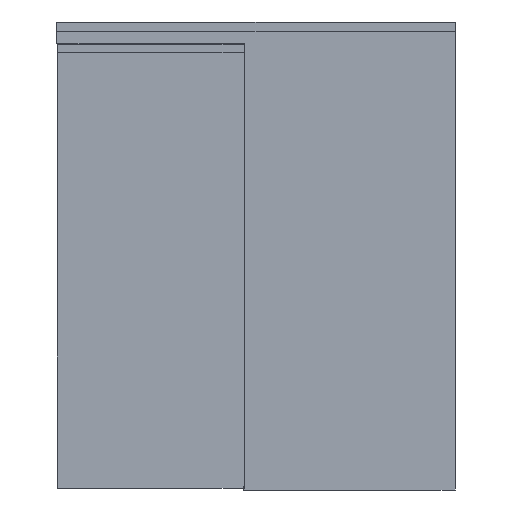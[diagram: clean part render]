
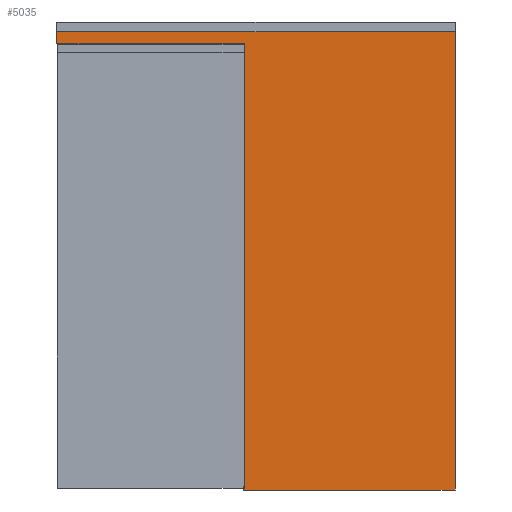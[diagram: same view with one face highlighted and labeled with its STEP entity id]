
A CAD part, front view. The second image highlights one B-rep face of the part: STEP entity #5035.
In plain terms, the highlighted planar face has unit normal (0, -1, 0).
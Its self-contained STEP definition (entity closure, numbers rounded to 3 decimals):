
#5035=ADVANCED_FACE('',(#10339),#10340,.F.);
#10339=FACE_OUTER_BOUND('',#15757,.T.);
#10340=PLANE('',#15758);
#15757=EDGE_LOOP('',(#29784,#29785,#29786,#29787,#29788,#29789));
#15758=AXIS2_PLACEMENT_3D('',#29790,#29791,#29792);
#29784=ORIENTED_EDGE('',*,*,#37343,.T.);
#29785=ORIENTED_EDGE('',*,*,#37333,.F.);
#29786=ORIENTED_EDGE('',*,*,#37337,.F.);
#29787=ORIENTED_EDGE('',*,*,#37341,.T.);
#29788=ORIENTED_EDGE('',*,*,#37344,.F.);
#29789=ORIENTED_EDGE('',*,*,#37345,.F.);
#29790=CARTESIAN_POINT('',(0.0,-46.5,2333.0));
#29791=DIRECTION('',(0.0,1.0,-0.0));
#29792=DIRECTION('',(0.0,0.0,1.0));
#37333=EDGE_CURVE('',#45869,#45864,#45871,.T.);
#37337=EDGE_CURVE('',#45875,#45869,#45877,.T.);
#37341=EDGE_CURVE('',#45875,#45881,#45883,.T.);
#37343=EDGE_CURVE('',#45885,#45864,#45886,.T.);
#37344=EDGE_CURVE('',#45887,#45881,#45888,.T.);
#37345=EDGE_CURVE('',#45885,#45887,#45889,.T.);
#45864=VERTEX_POINT('',#57369);
#45869=VERTEX_POINT('',#57376);
#45871=LINE('',#57379,#57380);
#45875=VERTEX_POINT('',#57385);
#45877=LINE('',#57388,#57389);
#45881=VERTEX_POINT('',#57394);
#45883=LINE('',#57397,#57398);
#45885=VERTEX_POINT('',#57400);
#45886=LINE('',#57401,#57402);
#45887=VERTEX_POINT('',#57403);
#45888=LINE('',#57404,#57405);
#45889=LINE('',#57406,#57407);
#57369=CARTESIAN_POINT('',(965.0,-46.5,2298.5));
#57376=CARTESIAN_POINT('',(965.0,-46.5,0.0));
#57379=CARTESIAN_POINT('',(965.0,-46.5,7.0));
#57380=VECTOR('',#65502,1.0);
#57385=CARTESIAN_POINT('',(2050.0,-46.5,0.0));
#57388=CARTESIAN_POINT('',(1327.5,-46.5,0.0));
#57389=VECTOR('',#65505,1.0);
#57394=CARTESIAN_POINT('',(2050.0,-46.5,2360.0));
#57397=CARTESIAN_POINT('',(2050.0,-46.5,7.0));
#57398=VECTOR('',#65508,1.0);
#57400=CARTESIAN_POINT('',(0.0,-46.5,2298.5));
#57401=CARTESIAN_POINT('',(0.0,-46.5,2298.5));
#57402=VECTOR('',#65509,1.0);
#57403=CARTESIAN_POINT('',(0.0,-46.5,2360.0));
#57404=CARTESIAN_POINT('',(1270.0,-46.5,2360.0));
#57405=VECTOR('',#65510,1.0);
#57406=CARTESIAN_POINT('',(0.0,-46.5,2301.0));
#57407=VECTOR('',#65511,1.0);
#65502=DIRECTION('',(0.0,0.0,1.0));
#65505=DIRECTION('',(-1.0,0.0,0.0));
#65508=DIRECTION('',(0.0,0.0,1.0));
#65509=DIRECTION('',(1.0,0.0,0.0));
#65510=DIRECTION('',(1.0,0.0,0.0));
#65511=DIRECTION('',(0.0,0.0,1.0));
